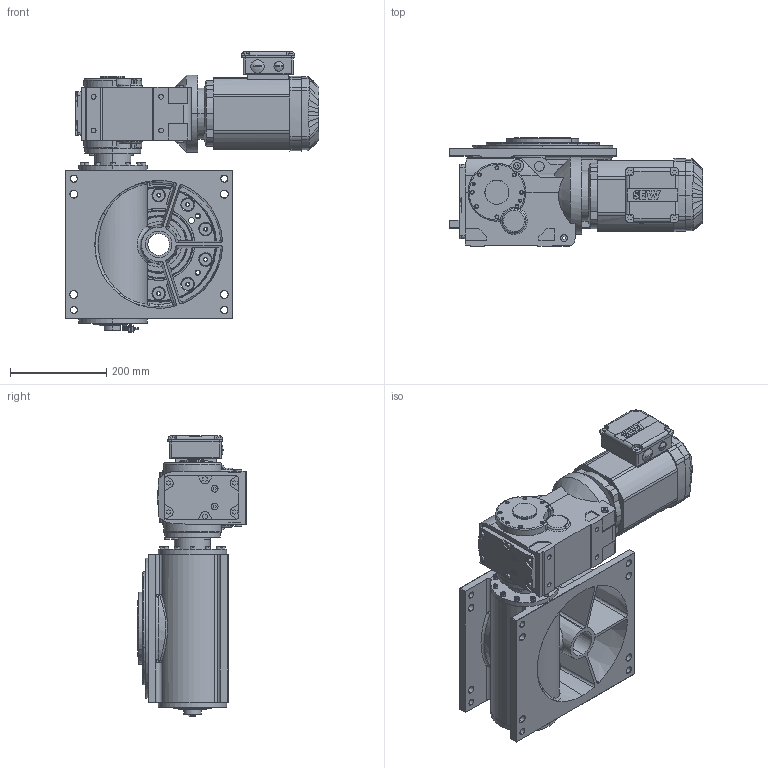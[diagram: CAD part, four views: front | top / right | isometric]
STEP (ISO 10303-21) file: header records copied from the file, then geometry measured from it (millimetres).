
FILE_DESCRIPTION (( 'STEP AP214' ), '1' );
FILE_NAME ('M235_SEW_KA47DRE80M4_D1_10.STEP', '2020-06-17T05:17:56', ( '' ), ( '' ), 'SwSTEP 2.0', 'SolidWorks 2020', '' );
FILE_SCHEMA (( 'AUTOMOTIVE_DESIGN' ));
Length unit declared in the file: millimetre
Products named in the file (1): M235_SEW_KA47DRE80M4_D1_10
Bounding box: 526 x 226 x 581.96 mm (x, y, z)
Surface area: 1186513.4 mm2 (no closed solid volume)
Topology: 0 solids, 94 shells, 1643 faces, 4979 edges, 3335 vertices
Faces by surface type: plane 615, cylinder 549, cone 249, bspline 138, torus 76, sphere 16
Entity records: 84365 total; most frequent: CARTESIAN_POINT 22539, DIRECTION 9247, ORIENTED_EDGE 8440, EDGE_CURVE 4929, AXIS2_PLACEMENT_3D 3406, VERTEX_POINT 3335, VECTOR 2435, LINE 2435
